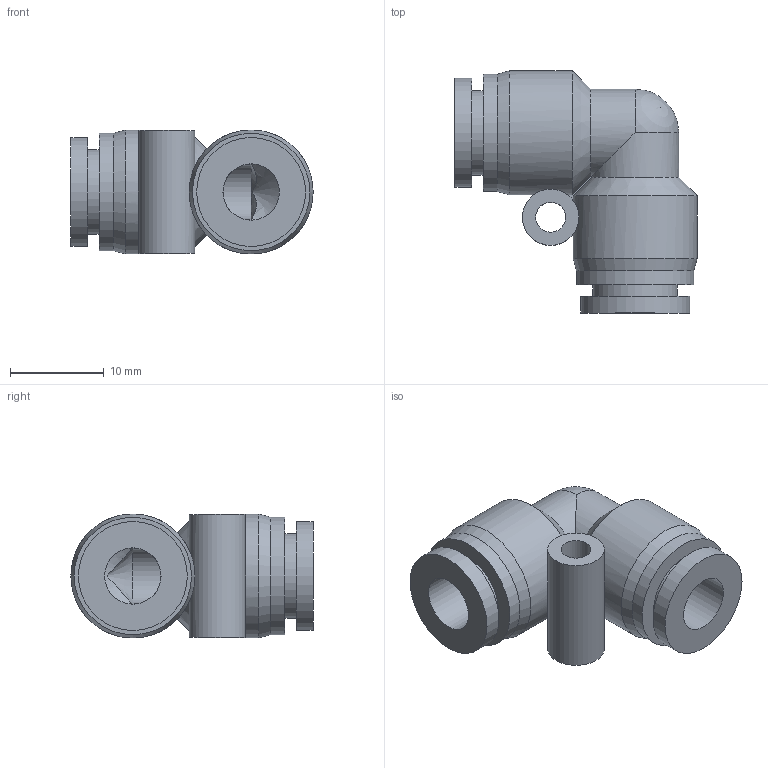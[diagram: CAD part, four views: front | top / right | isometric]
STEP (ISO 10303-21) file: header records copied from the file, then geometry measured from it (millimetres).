
FILE_DESCRIPTION((''),'2;1');
FILE_NAME('S:\UTecnico\ArchivioUT\Speciali Clienti\Speciali KONFIT\Plastica\RP\RP 54\RP540006.stp','2012-05-15T10:22:06',('UT5'),(''),'Autodesk Inventor 2012','Autodesk Inventor 2012','');
FILE_SCHEMA(('AUTOMOTIVE_DESIGN { 1 0 10303 214 1 1 1 1 }'));
Length unit declared in the file: millimetre
Products named in the file (1): RP540006
Bounding box: 25.8 x 25.8 x 13.2 mm (x, y, z)
Volume: 3269.8 mm3; surface area: 2847.5 mm2
Topology: 1 solids, 1 shells, 31 faces, 73 edges, 47 vertices
Faces by surface type: cylinder 14, plane 10, cone 6, sphere 1
Full cylindrical faces by diameter (mm): 3.2 x1, 6 x3, 9 x2, 11.6 x2, 12.5 x2, 13.2 x2
Entity records: 920 total; most frequent: CARTESIAN_POINT 244, DIRECTION 138, ORIENTED_EDGE 98, AXIS2_PLACEMENT_3D 65, EDGE_LOOP 54, EDGE_CURVE 49, VERTEX_POINT 39, FACE_OUTER_BOUND 31
